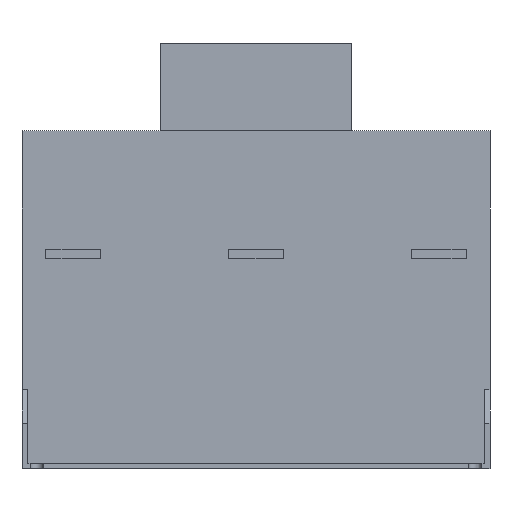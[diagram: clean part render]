
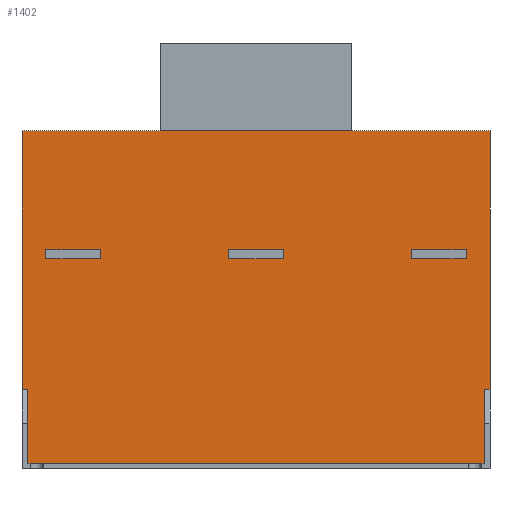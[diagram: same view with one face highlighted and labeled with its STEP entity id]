
A CAD part, front view. The second image highlights one B-rep face of the part: STEP entity #1402.
In plain terms, the highlighted planar face has unit normal (0, -1, 0).
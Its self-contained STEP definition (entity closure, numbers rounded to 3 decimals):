
#27=FACE_BOUND('',#239,.T.);
#28=FACE_BOUND('',#240,.T.);
#29=FACE_BOUND('',#241,.T.);
#80=PLANE('',#1523);
#153=FACE_OUTER_BOUND('',#238,.T.);
#238=EDGE_LOOP('',(#1194,#1195,#1196,#1197,#1198,#1199,#1200,#1201));
#239=EDGE_LOOP('',(#1202,#1203,#1204,#1205));
#240=EDGE_LOOP('',(#1206,#1207,#1208,#1209));
#241=EDGE_LOOP('',(#1210,#1211,#1212,#1213));
#270=LINE('',#1950,#436);
#274=LINE('',#1958,#440);
#277=LINE('',#1964,#443);
#280=LINE('',#1969,#446);
#282=LINE('',#1975,#448);
#286=LINE('',#1983,#452);
#289=LINE('',#1989,#455);
#292=LINE('',#1994,#458);
#294=LINE('',#2000,#460);
#298=LINE('',#2008,#464);
#301=LINE('',#2014,#467);
#304=LINE('',#2019,#470);
#366=LINE('',#2181,#532);
#380=LINE('',#2207,#546);
#383=LINE('',#2213,#549);
#392=LINE('',#2233,#558);
#393=LINE('',#2235,#559);
#394=LINE('',#2237,#560);
#395=LINE('',#2239,#561);
#396=LINE('',#2240,#562);
#436=VECTOR('',#1586,10.);
#440=VECTOR('',#1592,10.);
#443=VECTOR('',#1597,10.);
#446=VECTOR('',#1602,10.);
#448=VECTOR('',#1608,10.);
#452=VECTOR('',#1614,10.);
#455=VECTOR('',#1619,10.);
#458=VECTOR('',#1624,10.);
#460=VECTOR('',#1630,10.);
#464=VECTOR('',#1636,10.);
#467=VECTOR('',#1641,10.);
#470=VECTOR('',#1646,10.);
#532=VECTOR('',#1798,10.);
#546=VECTOR('',#1818,10.);
#549=VECTOR('',#1823,10.);
#558=VECTOR('',#1838,10.);
#559=VECTOR('',#1841,10.);
#560=VECTOR('',#1842,10.);
#561=VECTOR('',#1843,10.);
#562=VECTOR('',#1844,10.);
#636=VERTEX_POINT('',#1948);
#637=VERTEX_POINT('',#1949);
#640=VERTEX_POINT('',#1957);
#642=VERTEX_POINT('',#1963);
#644=VERTEX_POINT('',#1973);
#645=VERTEX_POINT('',#1974);
#648=VERTEX_POINT('',#1982);
#650=VERTEX_POINT('',#1988);
#652=VERTEX_POINT('',#1998);
#653=VERTEX_POINT('',#1999);
#656=VERTEX_POINT('',#2007);
#658=VERTEX_POINT('',#2013);
#713=VERTEX_POINT('',#2178);
#714=VERTEX_POINT('',#2180);
#722=VERTEX_POINT('',#2203);
#723=VERTEX_POINT('',#2205);
#724=VERTEX_POINT('',#2209);
#725=VERTEX_POINT('',#2211);
#734=VERTEX_POINT('',#2236);
#735=VERTEX_POINT('',#2238);
#770=EDGE_CURVE('',#636,#637,#270,.T.);
#774=EDGE_CURVE('',#637,#640,#274,.T.);
#777=EDGE_CURVE('',#640,#642,#277,.T.);
#780=EDGE_CURVE('',#642,#636,#280,.T.);
#782=EDGE_CURVE('',#644,#645,#282,.T.);
#786=EDGE_CURVE('',#645,#648,#286,.T.);
#789=EDGE_CURVE('',#648,#650,#289,.T.);
#792=EDGE_CURVE('',#650,#644,#292,.T.);
#794=EDGE_CURVE('',#652,#653,#294,.T.);
#798=EDGE_CURVE('',#653,#656,#298,.T.);
#801=EDGE_CURVE('',#656,#658,#301,.T.);
#804=EDGE_CURVE('',#658,#652,#304,.T.);
#882=EDGE_CURVE('',#714,#713,#366,.T.);
#896=EDGE_CURVE('',#723,#722,#380,.T.);
#899=EDGE_CURVE('',#725,#724,#383,.T.);
#908=EDGE_CURVE('',#713,#724,#392,.T.);
#909=EDGE_CURVE('',#723,#714,#393,.T.);
#910=EDGE_CURVE('',#734,#725,#394,.T.);
#911=EDGE_CURVE('',#735,#734,#395,.T.);
#912=EDGE_CURVE('',#722,#735,#396,.T.);
#1194=ORIENTED_EDGE('',*,*,#909,.T.);
#1195=ORIENTED_EDGE('',*,*,#882,.T.);
#1196=ORIENTED_EDGE('',*,*,#908,.T.);
#1197=ORIENTED_EDGE('',*,*,#899,.F.);
#1198=ORIENTED_EDGE('',*,*,#910,.F.);
#1199=ORIENTED_EDGE('',*,*,#911,.F.);
#1200=ORIENTED_EDGE('',*,*,#912,.F.);
#1201=ORIENTED_EDGE('',*,*,#896,.F.);
#1202=ORIENTED_EDGE('',*,*,#770,.T.);
#1203=ORIENTED_EDGE('',*,*,#774,.T.);
#1204=ORIENTED_EDGE('',*,*,#777,.T.);
#1205=ORIENTED_EDGE('',*,*,#780,.T.);
#1206=ORIENTED_EDGE('',*,*,#782,.T.);
#1207=ORIENTED_EDGE('',*,*,#786,.T.);
#1208=ORIENTED_EDGE('',*,*,#789,.T.);
#1209=ORIENTED_EDGE('',*,*,#792,.T.);
#1210=ORIENTED_EDGE('',*,*,#794,.T.);
#1211=ORIENTED_EDGE('',*,*,#798,.T.);
#1212=ORIENTED_EDGE('',*,*,#801,.T.);
#1213=ORIENTED_EDGE('',*,*,#804,.T.);
#1402=ADVANCED_FACE('',(#153,#27,#28,#29),#80,.T.);
#1523=AXIS2_PLACEMENT_3D('',#2234,#1839,#1840);
#1586=DIRECTION('',(0.,0.,1.));
#1592=DIRECTION('',(1.,0.,0.));
#1597=DIRECTION('',(0.,0.,-1.));
#1602=DIRECTION('',(-1.,0.,0.));
#1608=DIRECTION('',(0.,0.,1.));
#1614=DIRECTION('',(1.,0.,0.));
#1619=DIRECTION('',(0.,0.,-1.));
#1624=DIRECTION('',(-1.,0.,0.));
#1630=DIRECTION('',(0.,0.,1.));
#1636=DIRECTION('',(1.,0.,0.));
#1641=DIRECTION('',(0.,0.,-1.));
#1646=DIRECTION('',(-1.,0.,0.));
#1798=DIRECTION('',(1.,0.,0.));
#1818=DIRECTION('',(-1.,0.,0.));
#1823=DIRECTION('',(-1.,0.,0.));
#1838=DIRECTION('',(0.,0.,1.));
#1839=DIRECTION('center_axis',(0.,-1.,0.));
#1840=DIRECTION('ref_axis',(1.,0.,0.));
#1841=DIRECTION('',(0.,0.,-1.));
#1842=DIRECTION('',(0.,0.,-1.));
#1843=DIRECTION('',(1.,0.,0.));
#1844=DIRECTION('',(0.,0.,1.));
#1948=CARTESIAN_POINT('',(-115.,-202.5,115.));
#1949=CARTESIAN_POINT('',(-115.,-202.5,120.));
#1950=CARTESIAN_POINT('',(-115.,-202.5,60.));
#1957=CARTESIAN_POINT('',(-85.,-202.5,120.));
#1958=CARTESIAN_POINT('',(-106.5,-202.5,120.));
#1963=CARTESIAN_POINT('',(-85.,-202.5,115.));
#1964=CARTESIAN_POINT('',(-85.,-202.5,57.5));
#1969=CARTESIAN_POINT('',(-121.5,-202.5,115.));
#1973=CARTESIAN_POINT('',(-15.,-202.5,115.));
#1974=CARTESIAN_POINT('',(-15.,-202.5,120.));
#1975=CARTESIAN_POINT('',(-15.,-202.5,60.));
#1982=CARTESIAN_POINT('',(15.,-202.5,120.));
#1983=CARTESIAN_POINT('',(-56.5,-202.5,120.));
#1988=CARTESIAN_POINT('',(15.,-202.5,115.));
#1989=CARTESIAN_POINT('',(15.,-202.5,57.5));
#1994=CARTESIAN_POINT('',(-71.5,-202.5,115.));
#1998=CARTESIAN_POINT('',(85.,-202.5,115.));
#1999=CARTESIAN_POINT('',(85.,-202.5,120.));
#2000=CARTESIAN_POINT('',(85.,-202.5,60.));
#2007=CARTESIAN_POINT('',(115.,-202.5,120.));
#2008=CARTESIAN_POINT('',(-6.5,-202.5,120.));
#2013=CARTESIAN_POINT('',(115.,-202.5,115.));
#2014=CARTESIAN_POINT('',(115.,-202.5,57.5));
#2019=CARTESIAN_POINT('',(-21.5,-202.5,115.));
#2178=CARTESIAN_POINT('',(125.,-202.5,3.));
#2180=CARTESIAN_POINT('',(-125.,-202.5,3.));
#2181=CARTESIAN_POINT('',(-1.5,-202.5,3.));
#2203=CARTESIAN_POINT('',(-128.,-202.5,43.46));
#2205=CARTESIAN_POINT('',(-125.,-202.5,43.46));
#2207=CARTESIAN_POINT('',(128.,-202.5,43.46));
#2209=CARTESIAN_POINT('',(125.,-202.5,43.46));
#2211=CARTESIAN_POINT('',(128.,-202.5,43.46));
#2213=CARTESIAN_POINT('',(128.,-202.5,43.46));
#2233=CARTESIAN_POINT('',(125.,-202.5,92.5));
#2234=CARTESIAN_POINT('Origin',(-128.,-202.5,0.));
#2235=CARTESIAN_POINT('',(-125.,-202.5,1.5));
#2236=CARTESIAN_POINT('',(128.,-202.5,185.));
#2237=CARTESIAN_POINT('',(128.,-202.5,112.911));
#2238=CARTESIAN_POINT('',(-128.,-202.5,185.));
#2239=CARTESIAN_POINT('',(64.,-202.5,185.));
#2240=CARTESIAN_POINT('',(-128.,-202.5,112.911));
